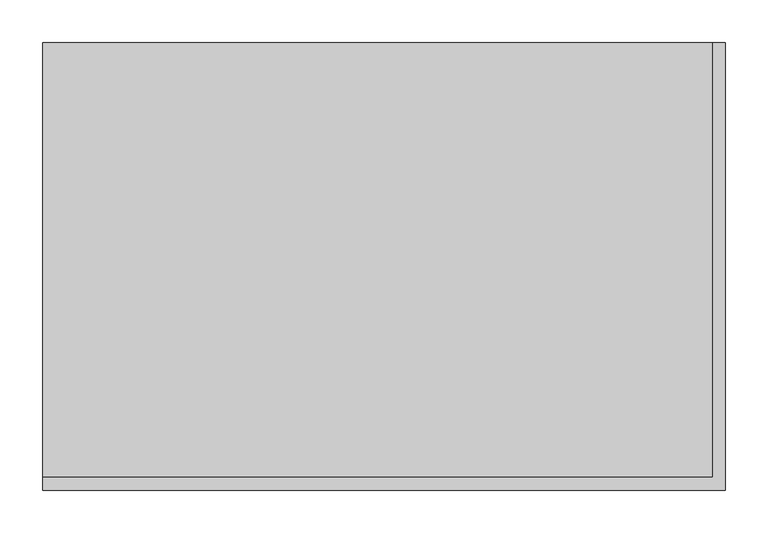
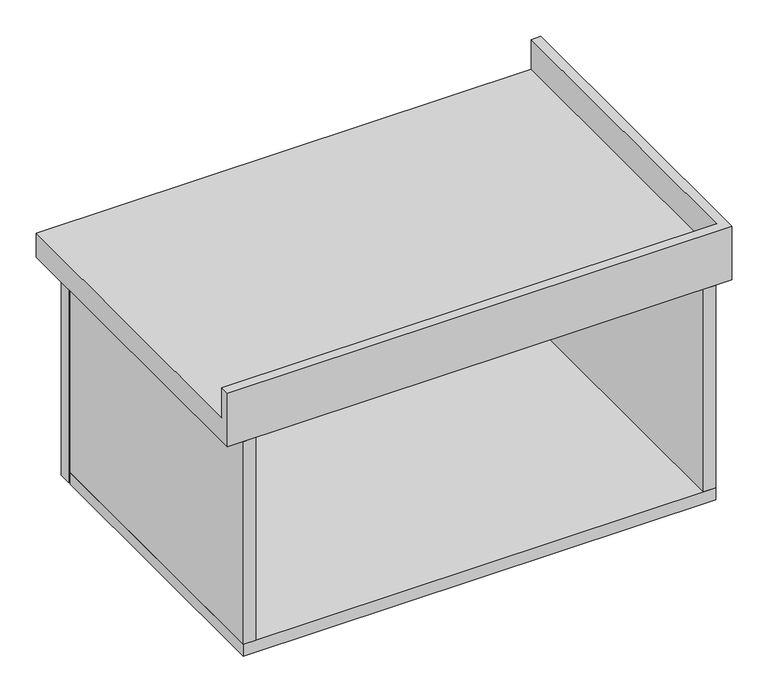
"""IFC4 building model written with IfcOpenShell, lengths in millimetres: furniture geometry, Mueble colgado 1 cajon - lavabo sobreponer : MB4-mueble baño colgado-1 cajon 80 cm."""

from ifc_helpers import new_model, si_unit, frame, origin, place, context, project, spatial, polyline, outline, extrude, faceted_brep, source, transform, mapped, element, save


def furniture_695d730f(model_context):
    return source(origin(), model_context, "Body", "SolidModel", [
        faceted_brep([(510.0, 25.0, 800.0), (510.0, 25.0, 750.0), (-275.0, 25.0, 750.0), (-275.0, 25.0, 800.0), (-275.0, 10.0, 800.0), (525.0, 10.0, 800.0), (525.0, 535.0, 800.0), (510.0, 535.0, 800.0), (-275.0, 535.0, 750.0), (-275.0, 535.0, 710.0), (-275.0, 10.0, 710.0), (525.0, 10.0, 710.0), (510.0, 535.0, 750.0), (525.0, 535.0, 710.0)], [[[0, 1, 2, 3]], [[0, 3, 4, 5, 6, 7]], [[3, 2, 8, 9, 10, 4]], [[5, 4, 10, 11]], [[1, 0, 7, 12]], [[13, 6, 5, 11]], [[8, 2, 1, 12]], [[13, 11, 10, 9]], [[7, 6, 13, 9, 8, 12]]]),
        extrude(outline(polyline([(500.0, 510.0), (500.0, 490.0), (-250.0, 490.0), (-250.0, 510.0), (500.0, 510.0)])), frame((0.0, 0.0, 350.0), z_axis=(0.0, 0.0, 1.0), x_axis=(1.0, 0.0, 0.0)), (0.0, 0.0, 1.0), 350.0),
        extrude(outline(polyline([(500.0, 10.0), (480.0, 10.0), (480.0, 485.0), (500.0, 485.0), (500.0, 10.0)])), frame((0.0, 0.0, 370.0), z_axis=(0.0, 0.0, 1.0), x_axis=(1.0, 0.0, 0.0)), (0.0, 0.0, 1.0), 340.0),
        extrude(outline(polyline([(-230.0, 10.0), (-250.0, 10.0), (-250.0, 485.0), (-230.0, 485.0), (-230.0, 10.0)])), frame((0.0, 0.0, 370.0), z_axis=(0.0, 0.0, 1.0), x_axis=(1.0, 0.0, 0.0)), (0.0, 0.0, 1.0), 340.0),
        extrude(outline(polyline([(500.0, 485.0), (500.0, 10.0), (-250.0, 10.0), (-250.0, 485.0), (500.0, 485.0)])), frame((0.0, 0.0, 350.0), z_axis=(0.0, 0.0, 1.0), x_axis=(1.0, 0.0, 0.0)), (0.0, 0.0, 1.0), 20.0),
    ])


if __name__ == "__main__":
    model = new_model("IFC4")
    model_context = context("Model", 3, world=origin())
    ifc_project = project(units=[si_unit("LENGTHUNIT", "METRE", prefix="MILLI")], contexts=[model_context])
    site = spatial("IfcSite", under=ifc_project)
    building = spatial("IfcBuilding", under=site)
    placement = place(None, origin())
    furniture_shape = furniture_695d730f(model_context)
    element("IfcFurniture", 1, ObjectType="Mueble colgado 1 cajon - lavabo sobreponer : MB4-mueble baño colgado-1 cajon 80 cm", at=placement, inside=building, context=model_context, shape_type="MappedRepresentation", body=[
        mapped(furniture_shape, transform((0.0, 0.0, 0.0), x_axis=(1.0, 0.0, 0.0), y_axis=(0.0, 1.0, 0.0), z_axis=(0.0, 0.0, 1.0))),
    ])
    save(model, "model.ifc")
